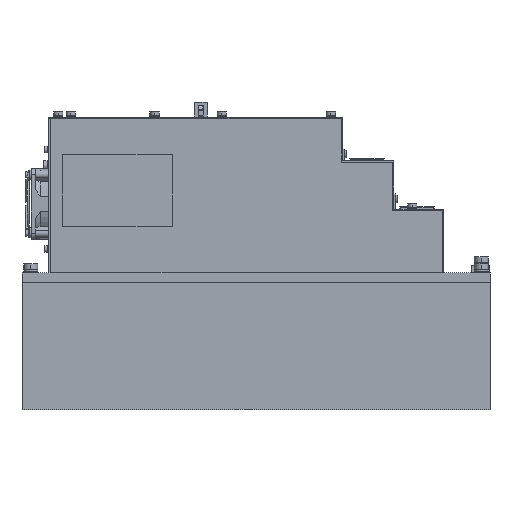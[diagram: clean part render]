
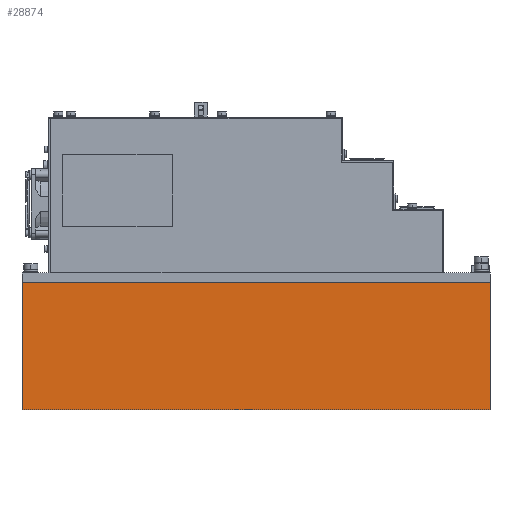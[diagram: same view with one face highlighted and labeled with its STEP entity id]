
A CAD part, left-side view. The second image highlights one B-rep face of the part: STEP entity #28874.
In plain terms, the highlighted planar face has unit normal (-1, 0, 0).
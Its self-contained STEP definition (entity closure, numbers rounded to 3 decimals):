
#28101 = VERTEX_POINT ( 'NONE', #66870 ) ;
#28232 = EDGE_CURVE ( 'NONE', #28101, #28234, #67098, .T. ) ;
#28234 = VERTEX_POINT ( 'NONE', #67094 ) ;
#28247 = EDGE_CURVE ( 'NONE', #28234, #28264, #67136, .T. ) ;
#28264 = VERTEX_POINT ( 'NONE', #67169 ) ;
#28874 = ADVANCED_FACE ( 'NONE', ( #68211 ), #68210, .F. ) ;
#28876 = EDGE_LOOP ( 'NONE', ( #28997, #28999, #28919, #28924 ) ) ;
#28916 = VERTEX_POINT ( 'NONE', #68268 ) ;
#28919 = ORIENTED_EDGE ( 'NONE', *, *, #28920, .T. ) ;
#28920 = EDGE_CURVE ( 'NONE', #28916, #28264, #68338, .T. ) ;
#28924 = ORIENTED_EDGE ( 'NONE', *, *, #28247, .F. ) ;
#28997 = ORIENTED_EDGE ( 'NONE', *, *, #28232, .F. ) ;
#28999 = ORIENTED_EDGE ( 'NONE', *, *, #29001, .T. ) ;
#29001 = EDGE_CURVE ( 'NONE', #28101, #28916, #68412, .T. ) ;
#66870 = CARTESIAN_POINT ( 'NONE',  ( -25., 7.5, 108.8 ) ) ;
#67094 = CARTESIAN_POINT ( 'NONE',  ( -25., -392.5, 108.8 ) ) ;
#67095 = DIRECTION ( 'NONE',  ( 0., -1., 0. ) ) ;
#67096 = VECTOR ( 'NONE', #67095, 1000. ) ;
#67097 = CARTESIAN_POINT ( 'NONE',  ( -25., 262.021, 108.8 ) ) ;
#67098 = LINE ( 'NONE', #67097, #67096 ) ;
#67133 = DIRECTION ( 'NONE',  ( 0., 0., -1. ) ) ;
#67134 = VECTOR ( 'NONE', #67133, 1000. ) ;
#67135 = CARTESIAN_POINT ( 'NONE',  ( -25., -392.5, 0. ) ) ;
#67136 = LINE ( 'NONE', #67135, #67134 ) ;
#67169 = CARTESIAN_POINT ( 'NONE',  ( -25., -392.5, 0. ) ) ;
#68206 = DIRECTION ( 'NONE',  ( 0., 0., -1. ) ) ;
#68207 = DIRECTION ( 'NONE',  ( 1., 0., 0. ) ) ;
#68208 = CARTESIAN_POINT ( 'NONE',  ( -25., 262.021, 108.8 ) ) ;
#68209 = AXIS2_PLACEMENT_3D ( 'NONE', #68208, #68207, #68206 ) ;
#68210 = PLANE ( 'NONE',  #68209 ) ;
#68211 = FACE_OUTER_BOUND ( 'NONE', #28876, .T. ) ;
#68268 = CARTESIAN_POINT ( 'NONE',  ( -25., 7.5, 0. ) ) ;
#68335 = DIRECTION ( 'NONE',  ( 0., -1., 0. ) ) ;
#68336 = VECTOR ( 'NONE', #68335, 1000. ) ;
#68337 = CARTESIAN_POINT ( 'NONE',  ( -25., 262.021, 0. ) ) ;
#68338 = LINE ( 'NONE', #68337, #68336 ) ;
#68409 = DIRECTION ( 'NONE',  ( 0., 0., -1. ) ) ;
#68410 = VECTOR ( 'NONE', #68409, 1000. ) ;
#68411 = CARTESIAN_POINT ( 'NONE',  ( -25., 7.5, 0. ) ) ;
#68412 = LINE ( 'NONE', #68411, #68410 ) ;
